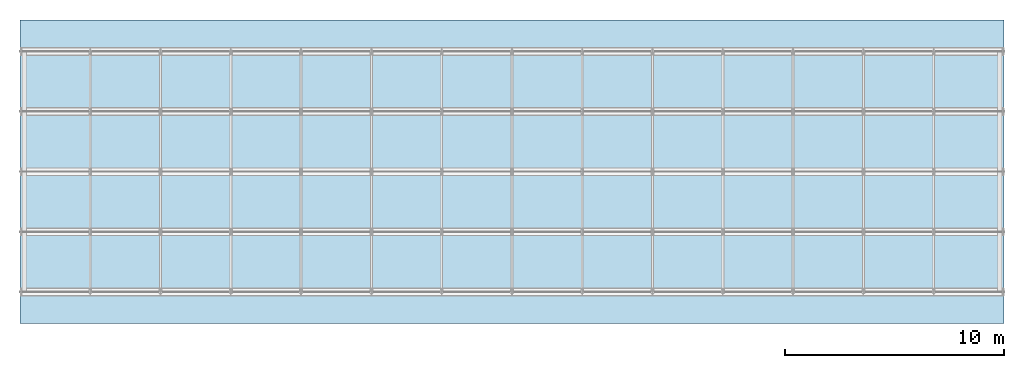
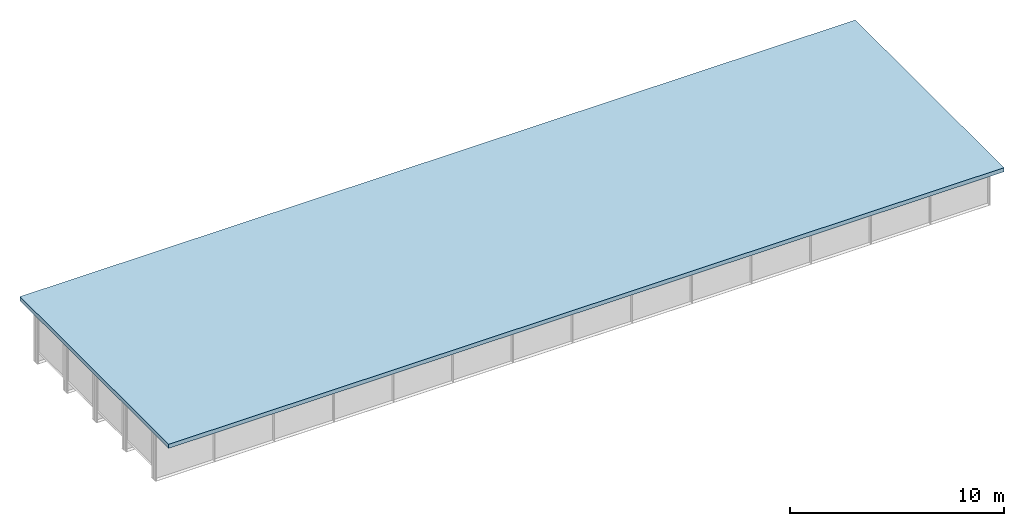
# One storey, part 12 of 20: 1 slab.
"""IFC4 building model written with IfcOpenShell, lengths in metres."""

from ifc_helpers import new_model, si_unit, frame, origin, origin_with_axes, place, context, subcontext, project, spatial, polyline, outline, extrude, element, save


model = new_model("IFC4")

# Units and contexts
model_context = context("Model", 3, precision=1e-05, world=origin())
body_context = subcontext(model_context, "Body", "Model", "MODEL_VIEW")
ifc_project = project(units=[si_unit("LENGTHUNIT", "METRE"), si_unit("AREAUNIT", "SQUARE_METRE"), si_unit("VOLUMEUNIT", "CUBIC_METRE"), si_unit("PLANEANGLEUNIT", "RADIAN")], contexts=[model_context])

# Site, building, storey
site_placement = place(None, origin_with_axes())
site = spatial("IfcSite", under=ifc_project, at=site_placement, Name="Default Site")
building_placement = place(site_placement, origin_with_axes())
building = spatial("IfcBuilding", under=site, at=building_placement, Name="Bridge Structure")
storey_placement = place(building_placement, origin_with_axes())
storey = spatial("IfcBuildingStorey", under=building, at=storey_placement, Name="Superstructure")

# Slab
slab_placement = place(storey_placement, frame((0.0, 0.0, 1.323), z_axis=(0.0, 0.0, 1.0), x_axis=(1.0, 0.0, 0.0)))
element("IfcSlab", 1, at=slab_placement, inside=storey, Name="Deck Slab", context=body_context, shape_type="SweptSolid", body=[
    extrude(outline(polyline([(0.0, -6.9375), (45.0, -6.9375), (45.0, 6.9375), (0.0, 6.9375), (0.0, -6.9375)])), origin_with_axes(), (0.0, 0.0, 1.0), 0.23),
])

save(model, "model.ifc")
